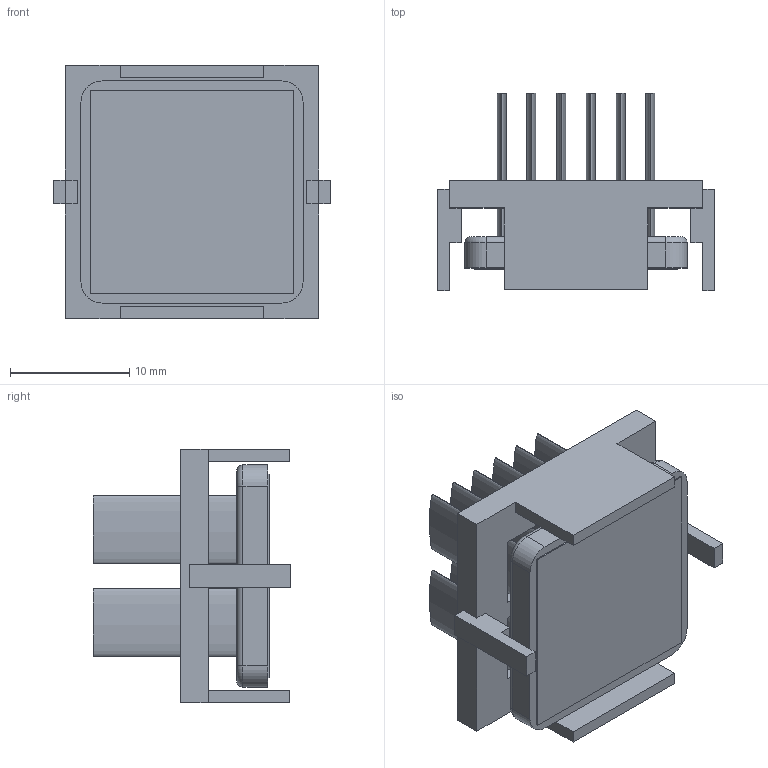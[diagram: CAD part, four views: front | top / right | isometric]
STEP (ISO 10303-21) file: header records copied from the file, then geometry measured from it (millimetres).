
FILE_DESCRIPTION (( 'STEP AP214' ), '1' );
FILE_NAME ('INM19001-15W-2.6BU.STEP', '2023-03-02T18:16:12', ( '' ), ( '' ), 'SwSTEP 2.0', 'SolidWorks 2020', '' );
FILE_SCHEMA (( 'AUTOMOTIVE_DESIGN' ));
Length unit declared in the file: millimetre
Products named in the file (1): INM19001-15W-2.6BU
Bounding box: 23.2 x 16.5 x 21.2 mm (x, y, z)
Volume: 2252.4 mm3; surface area: 4511.4 mm2
Topology: 3 solids, 3 shells, 106 faces, 256 edges, 168 vertices
Faces by surface type: plane 70, bspline 24, cylinder 8, torus 4
Entity records: 4330 total; most frequent: CARTESIAN_POINT 843, ORIENTED_EDGE 512, DIRECTION 394, EDGE_CURVE 256, LINE 188, VECTOR 188, VERTEX_POINT 168, EDGE_LOOP 120
